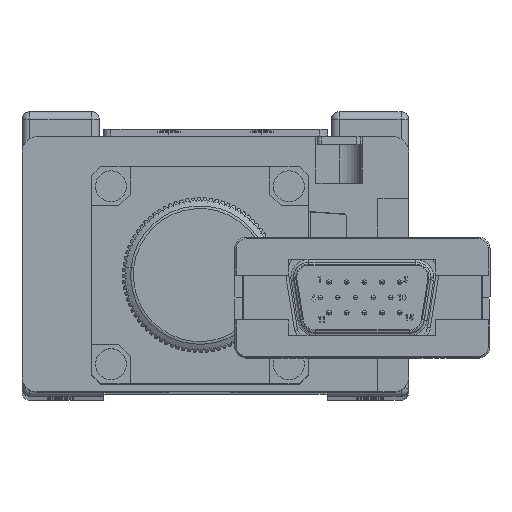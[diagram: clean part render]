
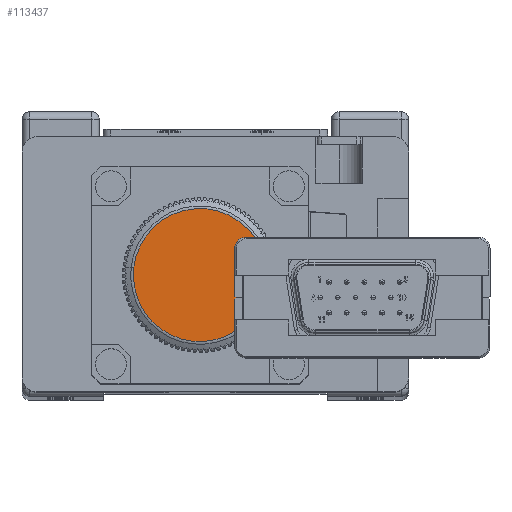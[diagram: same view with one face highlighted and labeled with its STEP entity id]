
A CAD part, top view. The second image highlights one B-rep face of the part: STEP entity #113437.
In plain terms, the highlighted planar face has unit normal (0, 0, 1).
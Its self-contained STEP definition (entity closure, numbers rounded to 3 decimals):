
#18308 = EDGE_CURVE ( 'NONE', #122461, #42014, #114066, .T. ) ;
#19056 = CARTESIAN_POINT ( 'NONE',  ( -2., 15.5, 387. ) ) ;
#31694 = AXIS2_PLACEMENT_3D ( 'NONE', #104898, #32663, #85986 ) ;
#32663 = DIRECTION ( 'NONE',  ( 0., 0., 1. ) ) ;
#42014 = VERTEX_POINT ( 'NONE', #107009 ) ;
#43928 = EDGE_CURVE ( 'NONE', #42014, #122461, #49005, .T. ) ;
#49005 = CIRCLE ( 'NONE', #31694, 8.6 ) ;
#60275 = DIRECTION ( 'NONE',  ( 0., 0., 1. ) ) ;
#61493 = CARTESIAN_POINT ( 'NONE',  ( -2., 15.5, 387. ) ) ;
#62151 = FACE_OUTER_BOUND ( 'NONE', #123193, .T. ) ;
#64917 = AXIS2_PLACEMENT_3D ( 'NONE', #61493, #102603, #82404 ) ;
#71656 = PLANE ( 'NONE',  #64917 ) ;
#82404 = DIRECTION ( 'NONE',  ( -0.994, 0.106, 0. ) ) ;
#85986 = DIRECTION ( 'NONE',  ( -0.994, 0.106, 0. ) ) ;
#91342 = DIRECTION ( 'NONE',  ( -0.994, 0.106, 0. ) ) ;
#102603 = DIRECTION ( 'NONE',  ( 0., 0., -1. ) ) ;
#102647 = ORIENTED_EDGE ( 'NONE', *, *, #18308, .T. ) ;
#104898 = CARTESIAN_POINT ( 'NONE',  ( -2., 15.5, 387. ) ) ;
#107009 = CARTESIAN_POINT ( 'NONE',  ( -10.552, 16.411, 387. ) ) ;
#107482 = ORIENTED_EDGE ( 'NONE', *, *, #43928, .T. ) ;
#113437 = ADVANCED_FACE ( 'NONE', ( #62151 ), #71656, .F. ) ;
#114066 = CIRCLE ( 'NONE', #123915, 8.6 ) ;
#120588 = CARTESIAN_POINT ( 'NONE',  ( 6.552, 14.589, 387. ) ) ;
#122461 = VERTEX_POINT ( 'NONE', #120588 ) ;
#123193 = EDGE_LOOP ( 'NONE', ( #107482, #102647 ) ) ;
#123915 = AXIS2_PLACEMENT_3D ( 'NONE', #19056, #60275, #91342 ) ;
